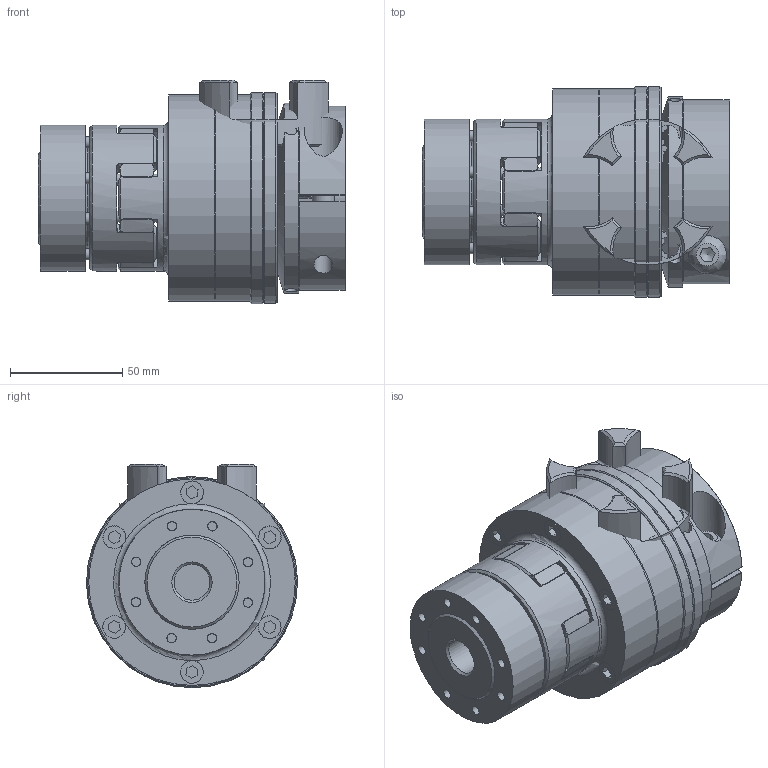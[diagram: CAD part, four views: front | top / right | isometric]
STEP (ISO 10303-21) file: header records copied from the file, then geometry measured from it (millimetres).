
FILE_DESCRIPTION( ( 'Unknown' ), '1' );
FILE_NAME( 'C:/Dokumente und Einstellungen/Sven/Desktop/hp kbk/E-AK/KBK EAK-28-138.stp', 'Unknown', ( 'Unknown' ), ( 'Unknown' ), 'XStep 1.0', 'Unknown', ' ' );
FILE_SCHEMA( ( 'automotive_design' ) );
Length unit declared in the file: millimetre
Products named in the file (19): Assem1; Assem2; Assem3; ball_bearing_-_6008_0_01_1; ball_bearing_-_6008_0_02_1; ball_bearing_-_6008_0_03_1; Zylinderschraube DIN 912_5; Stellring 80_1; Druckring 80_1; Flansch 80_1; a_40_1; Elastomerflansch 28_1; Zahnkranz EK28_Standard_1; KBE 3 - 28_Nabe_0; KBE3-28_Druckring_1; ISO EN DIN 4762 M5x25_0; KBK L-K-80 Grundkörper_1; Klemmnabe 80_1; schraube_iso_7380-m10x30-12_9_1
Bounding box: 137.05 x 94 x 99.5 mm (x, y, z)
Volume: 1140243.8 mm3; surface area: 373836.5 mm2
Topology: 48 solids, 48 shells, 1122 faces, 2549 edges, 1631 vertices
Faces by surface type: plane 402, cylinder 372, cone 279, torus 67, bspline 2
Full cylindrical faces by diameter (mm): 2.5 x4, 3.242 x6, 4.2 x24, 4.917 x12, 5 x33, 5.2 x6, 5.5 x16, 6 x8, 6.2 x12, 8.376 x2, 8.5 x9, 9.5 x16, 10 x10, 10.2 x12, 10.5 x2, 16 x2, 17 x2, 19 x2, 30 x6, 37.5 x2, 39 x2, 40 x7, 42 x2, 45 x2, 49.2 x6, 59.1 x6, 61 x2, 62 x4, 65 x6, 68 x7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
Entity records: 12999 total; most frequent: CARTESIAN_POINT 3043, DIRECTION 2104, ORIENTED_EDGE 1626, AXIS2_PLACEMENT_3D 973, EDGE_CURVE 813, EDGE_LOOP 726, VERTEX_POINT 608, FACE_OUTER_BOUND 560
